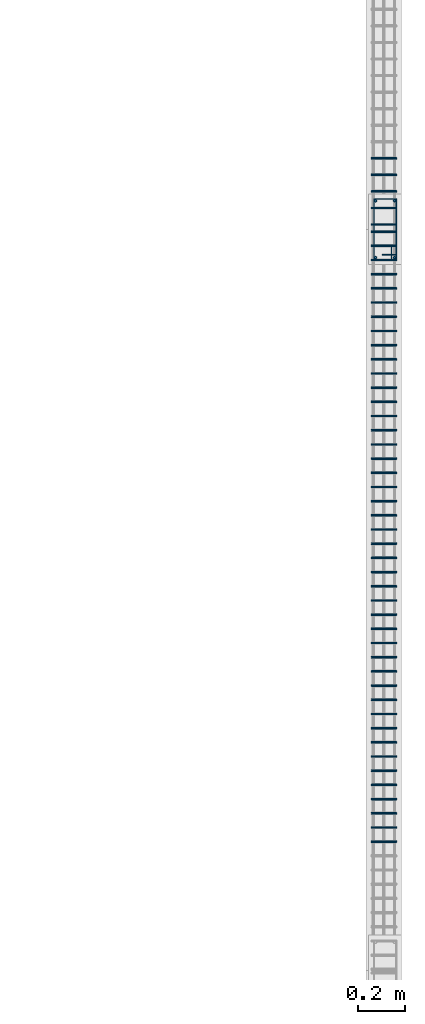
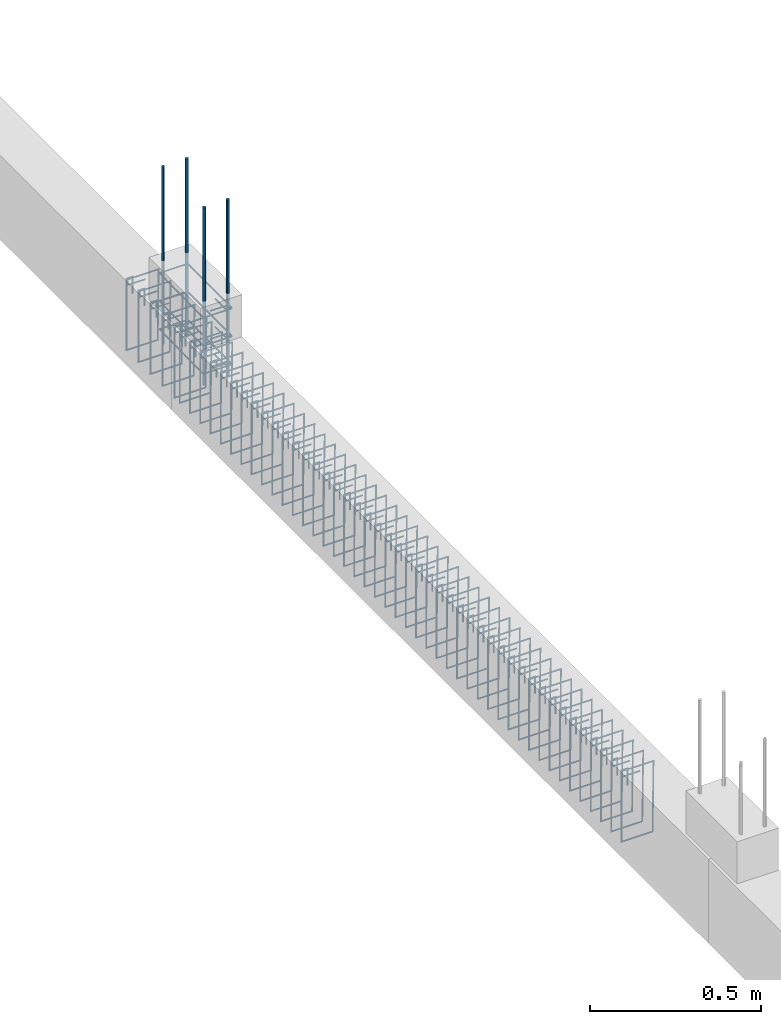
# One storey, part 148 of 150: 56 reinforcing bars.
"""IFC4 building model written with IfcOpenShell, lengths in centimetres."""

from ifc_helpers import new_model, entity, si_unit, derived_unit, frame, origin_with_axes, place, context, project, spatial, source, transform, mapped, element, save


model = new_model("IFC4")

# Units and contexts
model_context = context("Model", 3, precision=1e-05, world=origin_with_axes(), identifier="Body")
ifc_project = project(units=[si_unit("LENGTHUNIT", "METRE", prefix="CENTI"), si_unit("VOLUMEUNIT", "CUBIC_METRE"), si_unit("AREAUNIT", "SQUARE_METRE"), si_unit("POWERUNIT", "WATT"), si_unit("LUMINOUSFLUXUNIT", "LUMEN"), si_unit("ELECTRICCURRENTUNIT", "AMPERE"), si_unit("PRESSUREUNIT", "PASCAL", prefix="KILO"), si_unit("MASSUNIT", "GRAM", prefix="KILO"), si_unit("PLANEANGLEUNIT", "RADIAN"), derived_unit("VOLUMETRICFLOWRATEUNIT", [(si_unit("LENGTHUNIT", "METRE"), 3), (si_unit("TIMEUNIT", "SECOND"), -1)])], contexts=[model_context])

# Site, building, storey
site_placement = place(None, frame((-4000.0, 0.0, 0.0), z_axis=(0.0, 0.0, 1.0), x_axis=(1.0, 0.0, 0.0)))
site = spatial("IfcSite", under=ifc_project, at=site_placement, Name="PADRÃO")
building_placement = place(site_placement, frame((0.0, 0.0, -14.0)))
building = spatial("IfcBuilding", under=site, at=building_placement, Name="CRECHE PRÉ-ESCOLA TIPO 2")
placement = place(building_placement, origin_with_axes())
storey_placement = place(placement, frame((0.0, 0.0, 30.0), z_axis=(0.0, 0.0, 1.0), x_axis=(1.0, 0.0, 0.0)))
storey = spatial("IfcBuildingStorey", under=building, at=storey_placement, Name="VIGA BALDRAME", CompositionType="ELEMENT", Elevation=16.0)

# Reinforcing bars
shared_shape_1 = source(origin_with_axes(), model_context, "Body", "AdvancedSweptSolid", [
    entity("IfcSweptDiskSolid", entity("IfcCompositeCurve", [entity("IfcCompositeCurveSegment", "CONTINUOUS", True, entity("IfcPolyline", [entity("IfcCartesianPoint", [4.25, 21.75, 0.0]), entity("IfcCartesianPoint", [4.25, 27.75, 0.0])])), entity("IfcCompositeCurveSegment", "CONTINUOUS", True, entity("IfcPolyline", [entity("IfcCartesianPoint", [4.25, 27.75, 0.0]), entity("IfcCartesianPoint", [2.25, 27.75, 0.0])])), entity("IfcCompositeCurveSegment", "CONTINUOUS", True, entity("IfcPolyline", [entity("IfcCartesianPoint", [2.25, 27.75, 0.0]), entity("IfcCartesianPoint", [2.25, 2.25, 0.0])])), entity("IfcCompositeCurveSegment", "CONTINUOUS", True, entity("IfcPolyline", [entity("IfcCartesianPoint", [2.25, 2.25, 0.0]), entity("IfcCartesianPoint", [11.75, 2.25, 0.0])])), entity("IfcCompositeCurveSegment", "CONTINUOUS", True, entity("IfcPolyline", [entity("IfcCartesianPoint", [11.75, 2.25, 0.0]), entity("IfcCartesianPoint", [11.75, 27.75, -0.5])])), entity("IfcCompositeCurveSegment", "CONTINUOUS", True, entity("IfcPolyline", [entity("IfcCartesianPoint", [11.75, 27.75, -0.5]), entity("IfcCartesianPoint", [2.25, 27.75, -0.5])])), entity("IfcCompositeCurveSegment", "CONTINUOUS", True, entity("IfcPolyline", [entity("IfcCartesianPoint", [2.25, 27.75, -0.5]), entity("IfcCartesianPoint", [2.25, 25.75, -0.5])])), entity("IfcCompositeCurveSegment", "CONTINUOUS", True, entity("IfcPolyline", [entity("IfcCartesianPoint", [2.25, 25.75, -0.5]), entity("IfcCartesianPoint", [8.25, 25.75, -0.5])]))], False), 0.25),
])
for number, where, z_axis, x_axis, name in (
    (1, (3999.0, 4183.5, -25.0), (0.0, 0.0, 1.0), (-1.0, 0.0, 0.0), "P16 - Estribo"),
    (2, (3999.0, 4183.5, -15.0), (0.0, 0.0, 1.0), (-1.0, 0.0, 0.0), "P16 - Estribo"),
    (3, (3999.0, 4183.5, -5.0), (0.0, 0.0, 1.0), (-1.0, 0.0, 0.0), "P16 - Estribo"),
):
    element("IfcReinforcingBar", number, at=place(storey_placement, frame(where, z_axis=z_axis, x_axis=x_axis)), inside=storey, Name=name, BarLength=0.0, CrossSectionArea=1.9634954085e-05, NominalDiameter=0.5, PredefinedType="MAIN", context=model_context, shape_type="MappedRepresentation", body=[
        mapped(shared_shape_1, transform((0.0, 0.0, 0.0), scale=1.0)),
    ])
shared_shape_2 = source(origin_with_axes(), model_context, "Body", "AdvancedSweptSolid", [
    entity("IfcSweptDiskSolid", entity("IfcCompositeCurve", [entity("IfcCompositeCurveSegment", "CONTINUOUS", True, entity("IfcPolyline", [entity("IfcCartesianPoint", [2.0, -6.0, 0.0]), entity("IfcCartesianPoint", [2.0, 0.0, 0.0])])), entity("IfcCompositeCurveSegment", "CONTINUOUS", True, entity("IfcPolyline", [entity("IfcCartesianPoint", [2.0, 0.0, 0.0]), entity("IfcCartesianPoint", [0.0, 0.0, 0.0])])), entity("IfcCompositeCurveSegment", "CONTINUOUS", True, entity("IfcPolyline", [entity("IfcCartesianPoint", [0.0, 0.0, 0.0]), entity("IfcCartesianPoint", [0.0, -25.5, 0.0])])), entity("IfcCompositeCurveSegment", "CONTINUOUS", True, entity("IfcPolyline", [entity("IfcCartesianPoint", [0.0, -25.5, 0.0]), entity("IfcCartesianPoint", [10.5, -25.5, 0.0])])), entity("IfcCompositeCurveSegment", "CONTINUOUS", True, entity("IfcPolyline", [entity("IfcCartesianPoint", [10.5, -25.5, 0.0]), entity("IfcCartesianPoint", [10.5, 0.0, 0.5])])), entity("IfcCompositeCurveSegment", "CONTINUOUS", True, entity("IfcPolyline", [entity("IfcCartesianPoint", [10.5, 0.0, 0.5]), entity("IfcCartesianPoint", [0.0, 0.0, 0.5])])), entity("IfcCompositeCurveSegment", "CONTINUOUS", True, entity("IfcPolyline", [entity("IfcCartesianPoint", [0.0, 0.0, 0.5]), entity("IfcCartesianPoint", [0.0, -2.0, 0.5])])), entity("IfcCompositeCurveSegment", "CONTINUOUS", True, entity("IfcPolyline", [entity("IfcCartesianPoint", [0.0, -2.0, 0.5]), entity("IfcCartesianPoint", [6.0, -2.0, 0.5])]))], False), 0.25),
])
for number, where, z_axis, x_axis, name in (
    (4, (3986.25, 4167.75, -17.25), (0.0, -1.0, 0.0), (1.0, 0.0, 0.0), "V230 - Estribo"),
    (5, (3986.25, 4161.75, -17.25), (0.0, -1.0, 0.0), (1.0, 0.0, 0.0), "V230 - Estribo"),
    (6, (3986.25, 4155.75, -17.25), (0.0, -1.0, 0.0), (1.0, 0.0, 0.0), "V230 - Estribo"),
    (7, (3986.25, 4149.75, -17.25), (0.0, -1.0, 0.0), (1.0, 0.0, 0.0), "V230 - Estribo"),
    (8, (3986.25, 4143.75, -17.25), (0.0, -1.0, 0.0), (1.0, 0.0, 0.0), "V230 - Estribo"),
    (9, (3986.25, 4137.75, -17.25), (0.0, -1.0, 0.0), (1.0, 0.0, 0.0), "V230 - Estribo"),
    (10, (3986.25, 4131.75, -17.25), (0.0, -1.0, 0.0), (1.0, 0.0, 0.0), "V230 - Estribo"),
    (11, (3986.25, 4125.75, -17.25), (0.0, -1.0, 0.0), (1.0, 0.0, 0.0), "V230 - Estribo"),
    (12, (3986.25, 4119.75, -17.25), (0.0, -1.0, 0.0), (1.0, 0.0, 0.0), "V230 - Estribo"),
    (13, (3986.25, 4113.75, -17.25), (0.0, -1.0, 0.0), (1.0, 0.0, 0.0), "V230 - Estribo"),
    (14, (3986.25, 4107.75, -17.25), (0.0, -1.0, 0.0), (1.0, 0.0, 0.0), "V230 - Estribo"),
    (15, (3986.25, 4101.75, -17.25), (0.0, -1.0, 0.0), (1.0, 0.0, 0.0), "V230 - Estribo"),
    (16, (3986.25, 4095.75, -17.25), (0.0, -1.0, 0.0), (1.0, 0.0, 0.0), "V230 - Estribo"),
    (17, (3986.25, 4089.75, -17.25), (0.0, -1.0, 0.0), (1.0, 0.0, 0.0), "V230 - Estribo"),
    (18, (3986.25, 4083.75, -17.25), (0.0, -1.0, 0.0), (1.0, 0.0, 0.0), "V230 - Estribo"),
    (19, (3986.25, 4077.75, -17.25), (0.0, -1.0, 0.0), (1.0, 0.0, 0.0), "V230 - Estribo"),
    (20, (3986.25, 4071.75, -17.25), (0.0, -1.0, 0.0), (1.0, 0.0, 0.0), "V230 - Estribo"),
    (21, (3986.25, 4065.75, -17.25), (0.0, -1.0, 0.0), (1.0, 0.0, 0.0), "V230 - Estribo"),
    (22, (3986.25, 4059.75, -17.25), (0.0, -1.0, 0.0), (1.0, 0.0, 0.0), "V230 - Estribo"),
    (23, (3986.25, 4053.75, -17.25), (0.0, -1.0, 0.0), (1.0, 0.0, 0.0), "V230 - Estribo"),
    (24, (3986.25, 4047.75, -17.25), (0.0, -1.0, 0.0), (1.0, 0.0, 0.0), "V230 - Estribo"),
    (25, (3986.25, 4041.75, -17.25), (0.0, -1.0, 0.0), (1.0, 0.0, 0.0), "V230 - Estribo"),
    (26, (3986.25, 4035.75, -17.25), (0.0, -1.0, 0.0), (1.0, 0.0, 0.0), "V230 - Estribo"),
    (27, (3986.25, 4029.75, -17.25), (0.0, -1.0, 0.0), (1.0, 0.0, 0.0), "V230 - Estribo"),
    (28, (3986.25, 4023.75, -17.25), (0.0, -1.0, 0.0), (1.0, 0.0, 0.0), "V230 - Estribo"),
    (29, (3986.25, 4017.75, -17.25), (0.0, -1.0, 0.0), (1.0, 0.0, 0.0), "V230 - Estribo"),
    (30, (3986.25, 4011.75, -17.25), (0.0, -1.0, 0.0), (1.0, 0.0, 0.0), "V230 - Estribo"),
    (31, (3986.25, 4005.75, -17.25), (0.0, -1.0, 0.0), (1.0, 0.0, 0.0), "V230 - Estribo"),
    (32, (3986.25, 3999.75, -17.25), (0.0, -1.0, 0.0), (1.0, 0.0, 0.0), "V230 - Estribo"),
    (33, (3986.25, 3993.75, -17.25), (0.0, -1.0, 0.0), (1.0, 0.0, 0.0), "V230 - Estribo"),
    (34, (3986.25, 3987.75, -17.25), (0.0, -1.0, 0.0), (1.0, 0.0, 0.0), "V230 - Estribo"),
    (35, (3986.25, 3981.75, -17.25), (0.0, -1.0, 0.0), (1.0, 0.0, 0.0), "V230 - Estribo"),
    (36, (3986.25, 3975.75, -17.25), (0.0, -1.0, 0.0), (1.0, 0.0, 0.0), "V230 - Estribo"),
    (37, (3986.25, 3969.75, -17.25), (0.0, -1.0, 0.0), (1.0, 0.0, 0.0), "V230 - Estribo"),
    (38, (3986.25, 3963.75, -17.25), (0.0, -1.0, 0.0), (1.0, 0.0, 0.0), "V230 - Estribo"),
    (39, (3986.25, 3957.75, -17.25), (0.0, -1.0, 0.0), (1.0, 0.0, 0.0), "V230 - Estribo"),
    (40, (3986.25, 3951.75, -17.25), (0.0, -1.0, 0.0), (1.0, 0.0, 0.0), "V230 - Estribo"),
    (41, (3986.25, 3945.75, -17.25), (0.0, -1.0, 0.0), (1.0, 0.0, 0.0), "V230 - Estribo"),
    (42, (3986.25, 3939.75, -17.25), (0.0, -1.0, 0.0), (1.0, 0.0, 0.0), "V230 - Estribo"),
    (43, (3986.25, 3933.75, -17.25), (0.0, -1.0, 0.0), (1.0, 0.0, 0.0), "V230 - Estribo"),
    (44, (3986.25, 3927.75, -17.25), (0.0, -1.0, 0.0), (1.0, 0.0, 0.0), "V230 - Estribo"),
    (45, (3986.25, 3921.75, -17.25), (0.0, -1.0, 0.0), (1.0, 0.0, 0.0), "V230 - Estribo"),
    (46, (3986.25, 3915.75, -17.25), (0.0, -1.0, 0.0), (1.0, 0.0, 0.0), "V230 - Estribo"),
    (47, (3986.25, 3909.75, -17.25), (0.0, -1.0, 0.0), (1.0, 0.0, 0.0), "V230 - Estribo"),
):
    element("IfcReinforcingBar", number, at=place(storey_placement, frame(where, z_axis=z_axis, x_axis=x_axis)), inside=storey, Name=name, BarLength=0.0, CrossSectionArea=1.9634954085e-05, NominalDiameter=0.5, PredefinedType="MAIN", context=model_context, shape_type="MappedRepresentation", body=[
        mapped(shared_shape_2, transform((0.0, 0.0, 0.0), scale=1.0)),
    ])
shared_shape_3 = source(origin_with_axes(), model_context, "Body", "AdvancedSweptSolid", [
    entity("IfcSweptDiskSolid", entity("IfcCompositeCurve", [entity("IfcCompositeCurveSegment", "CONTINUOUS", True, entity("IfcPolyline", [entity("IfcCartesianPoint", [2.0, -6.0, 0.0]), entity("IfcCartesianPoint", [2.0, 0.0, 0.0])])), entity("IfcCompositeCurveSegment", "CONTINUOUS", True, entity("IfcPolyline", [entity("IfcCartesianPoint", [2.0, 0.0, 0.0]), entity("IfcCartesianPoint", [0.0, 0.0, 0.0])])), entity("IfcCompositeCurveSegment", "CONTINUOUS", True, entity("IfcPolyline", [entity("IfcCartesianPoint", [0.0, 0.0, 0.0]), entity("IfcCartesianPoint", [0.0, -25.5, 0.0])])), entity("IfcCompositeCurveSegment", "CONTINUOUS", True, entity("IfcPolyline", [entity("IfcCartesianPoint", [0.0, -25.5, 0.0]), entity("IfcCartesianPoint", [10.5, -25.5, 0.0])])), entity("IfcCompositeCurveSegment", "CONTINUOUS", True, entity("IfcPolyline", [entity("IfcCartesianPoint", [10.5, -25.5, 0.0]), entity("IfcCartesianPoint", [10.5, 0.0, 0.5])])), entity("IfcCompositeCurveSegment", "CONTINUOUS", True, entity("IfcPolyline", [entity("IfcCartesianPoint", [10.5, 0.0, 0.5]), entity("IfcCartesianPoint", [0.0, 0.0, 0.5])])), entity("IfcCompositeCurveSegment", "CONTINUOUS", True, entity("IfcPolyline", [entity("IfcCartesianPoint", [0.0, 0.0, 0.5]), entity("IfcCartesianPoint", [0.0, -2.0, 0.5])])), entity("IfcCompositeCurveSegment", "CONTINUOUS", True, entity("IfcPolyline", [entity("IfcCartesianPoint", [0.0, -2.0, 0.5]), entity("IfcCartesianPoint", [6.0, -2.0, 0.5])]))], False), 0.25),
])
for number, where, z_axis, x_axis, name in (
    (48, (3986.25, 4198.75, -17.25), (0.0, -1.0, 0.0), (1.0, 0.0, 0.0), "V230 - Estribo"),
    (49, (3986.25, 4191.75, -17.25), (0.0, -1.0, 0.0), (1.0, 0.0, 0.0), "V230 - Estribo"),
    (50, (3986.25, 4184.75, -17.25), (0.0, -1.0, 0.0), (1.0, 0.0, 0.0), "V230 - Estribo"),
    (51, (3986.25, 4177.75, -17.25), (0.0, -1.0, 0.0), (1.0, 0.0, 0.0), "V230 - Estribo"),
    (52, (3986.25, 4170.75, -17.25), (0.0, -1.0, 0.0), (1.0, 0.0, 0.0), "V230 - Estribo"),
):
    element("IfcReinforcingBar", number, at=place(storey_placement, frame(where, z_axis=z_axis, x_axis=x_axis)), inside=storey, Name=name, BarLength=0.0, CrossSectionArea=1.9634954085e-05, NominalDiameter=0.5, PredefinedType="MAIN", context=model_context, shape_type="MappedRepresentation", body=[
        mapped(shared_shape_3, transform((0.0, 0.0, 0.0), scale=1.0)),
    ])
for number, where, z_axis, x_axis, name in (
    (53, (3996.0, 4156.5, 33.3573001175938), (0.0, 0.0, 1.0), (1.0, 0.0, 0.0), "P16 - Longitudinal"),
    (54, (3988.0, 4156.5, 33.3573001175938), (0.0, 0.0, 1.0), (1.0, 0.0, 0.0), "P16 - Longitudinal"),
    (55, (3988.0, 4180.5, 33.3573001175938), (0.0, 0.0, 1.0), (1.0, 0.0, 0.0), "P16 - Longitudinal"),
    (56, (3996.0, 4180.5, 33.3573001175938), (0.0, 0.0, 1.0), (1.0, 0.0, 0.0), "P16 - Longitudinal"),
):
    element("IfcReinforcingBar", number, at=place(storey_placement, frame(where, z_axis=z_axis, x_axis=x_axis)), inside=storey, Name=name, BarLength=0.0, CrossSectionArea=7.853981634e-05, NominalDiameter=1.0, PredefinedType="MAIN", context=model_context, shape_type="AdvancedSweptSolid", body=[
        entity("IfcSweptDiskSolid", entity("IfcCompositeCurve", [entity("IfcCompositeCurveSegment", "CONTINUOUS", True, entity("IfcPolyline", [entity("IfcCartesianPoint", [0.0, 0.0, -63.3573001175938]), entity("IfcCartesianPoint", [0.0, 0.0, 0.0])]))], False), 0.5),
    ])

save(model, "model.ifc")
